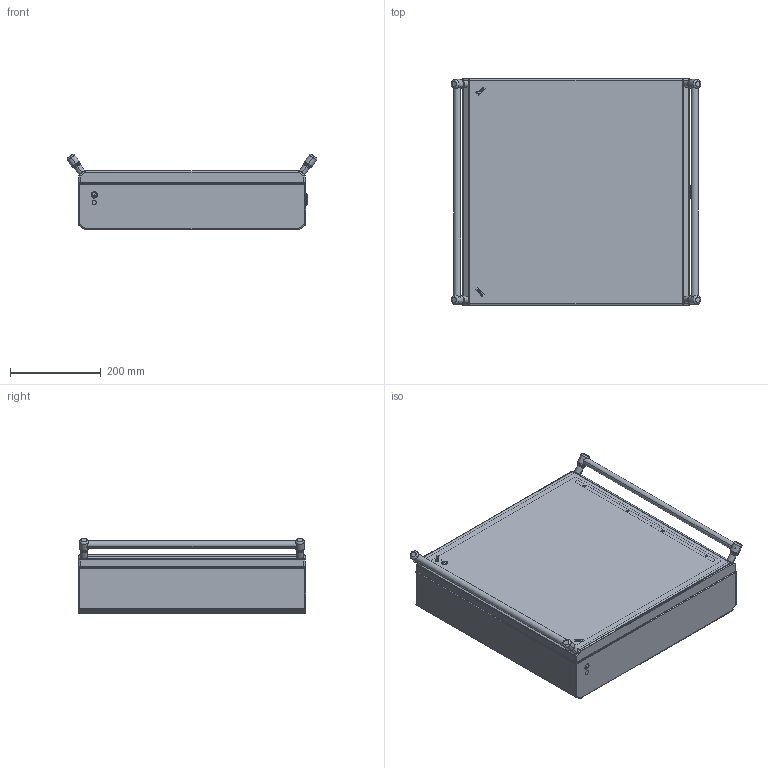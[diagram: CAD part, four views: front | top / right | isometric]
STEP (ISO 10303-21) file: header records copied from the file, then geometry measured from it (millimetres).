
FILE_DESCRIPTION (( 'STEP AP203' ), '1' );
FILE_NAME ('BK55AM-COM.step', '2023-09-19T13:20:03', ( '' ), ( '' ), 'SwSTEP 2.0', 'SolidWorks 2021', '' );
FILE_SCHEMA (( 'CONFIG_CONTROL_DESIGN' ));
Length unit declared in the file: millimetre
Products named in the file (20): Porte Box BK33-BK75M_POBK55M; Guarnizione Schiumata 13x6.5_GBK55-GBK55M; Scarpetta Box serie BK; 1000-156-01^1000-u183_ SG215S_Assiemi Box serie BK33-BK75M;  1000-U134^ SG215S_Assiemi Box serie BK33-BK75M; 1000-u183^ SG215S_Assiemi Box serie BK33-BK75M; PRM615TL316; 1000-24^1000-u183_ SG215S_Assiemi Box serie BK33-BK75M; Tubo maniglia Box BK H300-H550_TMBK500; LOGO_ILINOX; BK55AM-COM; OLD-ADMT_ADMT; Fasciame FABK33- FABK75M_FABK55; 1000-02-RA_1^ 1000-U134_ SG215S_Assiemi Box serie BK33-BK75M; Staffa Serraggio Box BK_SSBKH500; 1000-03-PG^1000-u183_ SG215S_Assiemi Box serie BK33-BK75M;  SG215S^Assiemi Box serie BK33-BK75M_Chiusura_BASSO; 1000-101-GPF_GPD_1^ 1000-U134_ SG215S_Assiemi Box serie BK33-BK75M; Parte7^ SG215S_Assiemi Box serie BK33-BK75M; 1000-277-01PI^1000-u183_ SG215S_Assiemi Box serie BK33-BK75M
Assembly tree (25 placements, depth 4):
  BK55AM-COM
    Fasciame FABK33- FABK75M_FABK55
    Porte Box BK33-BK75M_POBK55M
    Guarnizione Schiumata 13x6.5_GBK55-GBK55M
    Staffa Serraggio Box BK_SSBKH500
    Scarpetta Box serie BK
    Tubo maniglia Box BK H300-H550_TMBK500  x2
     SG215S^Assiemi Box serie BK33-BK75M_Chiusura_BASSO
       1000-U134^ SG215S_Assiemi Box serie BK33-BK75M
        1000-101-GPF_GPD_1^ 1000-U134_ SG215S_Assiemi Box serie BK33-BK75M
        1000-02-RA_1^ 1000-U134_ SG215S_Assiemi Box serie BK33-BK75M
      1000-u183^ SG215S_Assiemi Box serie BK33-BK75M
        1000-156-01^1000-u183_ SG215S_Assiemi Box serie BK33-BK75M
        1000-03-PG^1000-u183_ SG215S_Assiemi Box serie BK33-BK75M
        1000-24^1000-u183_ SG215S_Assiemi Box serie BK33-BK75M
        1000-277-01PI^1000-u183_ SG215S_Assiemi Box serie BK33-BK75M
      Parte7^ SG215S_Assiemi Box serie BK33-BK75M
    OLD-ADMT_ADMT  x2
    LOGO_ILINOX  x2
    PRM615TL316  x4
Bounding box: 549.31 x 500 x 166.07 mm (x, y, z)
Volume: 1590114.3 mm3; surface area: 1781859.5 mm2
Topology: 47 solids, 54 shells, 1251 faces, 2899 edges, 1762 vertices
Faces by surface type: plane 596, cylinder 438, cone 72, torus 64, sphere 50, bspline 31
Entity records: 33899 total; most frequent: CARTESIAN_POINT 8158, DIRECTION 5179, ORIENTED_EDGE 4675, EDGE_CURVE 2341, AXIS2_PLACEMENT_3D 1973, VERTEX_POINT 1444, VECTOR 1233, LINE 1233
